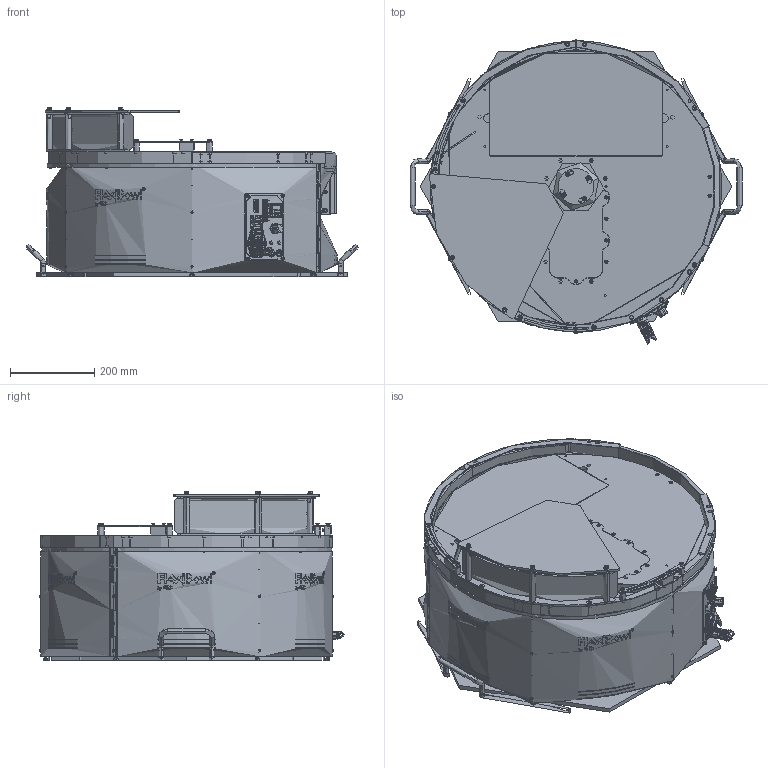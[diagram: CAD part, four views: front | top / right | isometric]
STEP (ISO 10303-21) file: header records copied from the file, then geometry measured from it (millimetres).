
FILE_DESCRIPTION (( 'STEP AP214' ), '1' );
FILE_NAME ('GM000215_FB650C V2.2 Quick Emptying.STEP', '2026-06-03T06:39:47', ( '' ), ( '' ), 'SwSTEP 2.0', 'SolidWorks 2025', '' );
FILE_SCHEMA (( 'AUTOMOTIVE_DESIGN' ));
Length unit declared in the file: millimetre
Products named in the file (100): Copia di PD001356^GM000215_FB650C V2.2; Copia di CM000015^GM000215_FB650C V2.2; Copia di PD001103^GM000215_FB650C V2.2; Copia di CM000035^GM000215_FB650C V2.2; Copia di CM000025^GM000215_FB650C V2.2; Copia di Copia di 39-01-2025^Copia di CE000327_GM000215_FB650C V2.2; Copia di PD006073^GM000215_FB650C V2.2; Copia di PD001096^GM000215_FB650C V2.2; Copia di CM000642^GM000215_FB650C V2.2; CM000212; Copia di PD001061^GM000215_FB650C V2.2; Copia di CM000424^GM000215_FB650C V2.2; Copia di CM000026^GM000215_FB650C V2.2; Copia di Copia di CE000325^Copia di CE000461_GM000215_FB650C V2.2; Copia di PD005830^GM000215_FB650C V2.2; Copia di CE000030^GM000215_FB650C V2.2; Copia di CM000008_003^Copia di CM000008_GM000215_FB650C V2.2; PD001651; Copia di CE000461^GM000215_FB650C V2.2; CM001420; Copia di PD001120^GM000215_FB650C V2.2; Copia di CE000326^GM000215_FB650C V2.2; CM000037; Copia di Copia di CE000327^Copia di CE000327_GM000215_FB650C V2.2; Copia di Copia di 2 - Copia^Copia di CE000322_GM000215_FB650C V2.2; Copia di CE000013^GM000215_FB650C V2.2; Copia di CM000686^GM000215_FB650C V2.2; Copia di Copia di Guaina^Copia di CE000463_GM000215_FB650C V2.2; Copia di CM000043^GM000215_FB650C V2.2; Copia di CM000086^GM000215_FB650C V2.2; CM000730; Copia di Copia di Connettore te 2 poli - Copia^Copia di CE000463_GM000215_FB650C V2.2; Copia di PD000043^GM000215_FB650C V2.2; Copia di CM000015_002^Copia di CM000015_GM000215_FB650C V2.2; PD006112; Copia di CM000686_001^Copia di CM000686_GM000215_FB650C V2.2; Copia di Copia di Led RDY_FLT^Copia di CE000326_GM000215_FB650C V2.2; Copia di PD000709^GM000215_FB650C V2.2; Copia di CM000091^GM000215_FB650C V2.2; Copia di CM000008^GM000215_FB650C V2.2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
Assembly tree (215 placements, depth 4):
  GM000215_FB650C V2.2 Quick Emptying
    Copia di CM000032^GM000215_FB650C V2.2  x4
    Copia di CM000048^GM000215_FB650C V2.2  x16
    Copia di CM000031^GM000215_FB650C V2.2  x9
    Copia di CM000050^GM000215_FB650C V2.2  x3
    Copia di CM000170^GM000215_FB650C V2.2  x6
    Copia di CM000166^GM000215_FB650C V2.2  x8
    Copia di CM000642^GM000215_FB650C V2.2  x4
    Copia di CM000035^GM000215_FB650C V2.2  x4
    Copia di CM000027^GM000215_FB650C V2.2  x4
    Copia di CM000086^GM000215_FB650C V2.2  x5
    Copia di CM000051^GM000215_FB650C V2.2  x4
    Copia di CM000044^GM000215_FB650C V2.2
    Copia di CM000025^GM000215_FB650C V2.2  x4
    Copia di CM000043^GM000215_FB650C V2.2  x2
    Copia di CM000026^GM000215_FB650C V2.2  x8
    Copia di CM000024^GM000215_FB650C V2.2  x8
    Copia di CM000006^GM000215_FB650C V2.2  x4
    Copia di CM000091^GM000215_FB650C V2.2
    Copia di CM000037^GM000215_FB650C V2.2  x3
    Copia di CM000021^GM000215_FB650C V2.2  x3
    Copia di CM000039^GM000215_FB650C V2.2  x3
    Copia di CM001243^GM000215_FB650C V2.2  x2
    Copia di CM000015^GM000215_FB650C V2.2  x2
      Copia di CM000015_001^Copia di CM000015_GM000215_FB650C V2.2
      Copia di CM000015_002^Copia di CM000015_GM000215_FB650C V2.2
    Copia di CM000424^GM000215_FB650C V2.2
    Copia di CM000099^GM000215_FB650C V2.2
    Copia di CE000327^GM000215_FB650C V2.2
      Copia di Copia di CE000327^Copia di CE000327_GM000215_FB650C V2.2
      Copia di Copia di 39-01-2025^Copia di CE000327_GM000215_FB650C V2.2
    Copia di CE000326^GM000215_FB650C V2.2
      Copia di Copia di Led RDY_FLT^Copia di CE000326_GM000215_FB650C V2.2
      Copia di Copia di 39-01-2045^Copia di CE000326_GM000215_FB650C V2.2
    Copia di CE000322^GM000215_FB650C V2.2
      Copia di Copia di 2 - Copia^Copia di CE000322_GM000215_FB650C V2.2  x4
    Copia di CE000461^GM000215_FB650C V2.2
      Copia di Copia di CE000325^Copia di CE000461_GM000215_FB650C V2.2
      Copia di Copia di 43025-0600^Copia di CE000461_GM000215_FB650C V2.2
      Copia di Copia di Guaina^Copia di CE000461_GM000215_FB650C V2.2
    Copia di CE000463^GM000215_FB650C V2.2
      Copia di Copia di connector_a-ds_25_pp-f^Copia di CE000463_GM000215_FB650C V2.2
      Copia di Copia di Connettore te 2 poli - Copia^Copia di CE000463_GM000215_FB650C V2.2
      Copia di Copia di 39-01-2025^Copia di CE000463_GM000215_FB650C V2.2
      Copia di Copia di 43025-1600^Copia di CE000463_GM000215_FB650C V2.2
      Copia di Copia di Guaina^Copia di CE000463_GM000215_FB650C V2.2
    Copia di PD001096^GM000215_FB650C V2.2
    Copia di CM000001^GM000215_FB650C V2.2  x2
    Copia di PD001440^GM000215_FB650C V2.2  x6
    Copia di PD006073^GM000215_FB650C V2.2  x2
    Copia di PD001654^GM000215_FB650C V2.2
    Copia di PD000709^GM000215_FB650C V2.2
    Copia di PD001102^GM000215_FB650C V2.2
    Copia di PD001103^GM000215_FB650C V2.2
    Copia di PD001061^GM000215_FB650C V2.2
    Copia di PD000043^GM000215_FB650C V2.2  x4
    Copia di PD001121^GM000215_FB650C V2.2  x2
    Copia di PD001119^GM000215_FB650C V2.2  x2
    Copia di PD001122^GM000215_FB650C V2.2
    Copia di PD001120^GM000215_FB650C V2.2
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Bounding box: 787.87 x 722.09 x 402.5 mm (x, y, z)
Topology: 220 solids, 1109 shells, 11952 faces, 32588 edges, 22345 vertices
Faces by surface type: plane 6020, cylinder 2831, bspline 1550, cone 1341, torus 173, sphere 37
Entity records: 437595 total; most frequent: CARTESIAN_POINT 209596, ORIENTED_EDGE 46293, DIRECTION 41338, EDGE_CURVE 25708, VERTEX_POINT 18410, VECTOR 14866, LINE 14866, AXIS2_PLACEMENT_3D 13236
